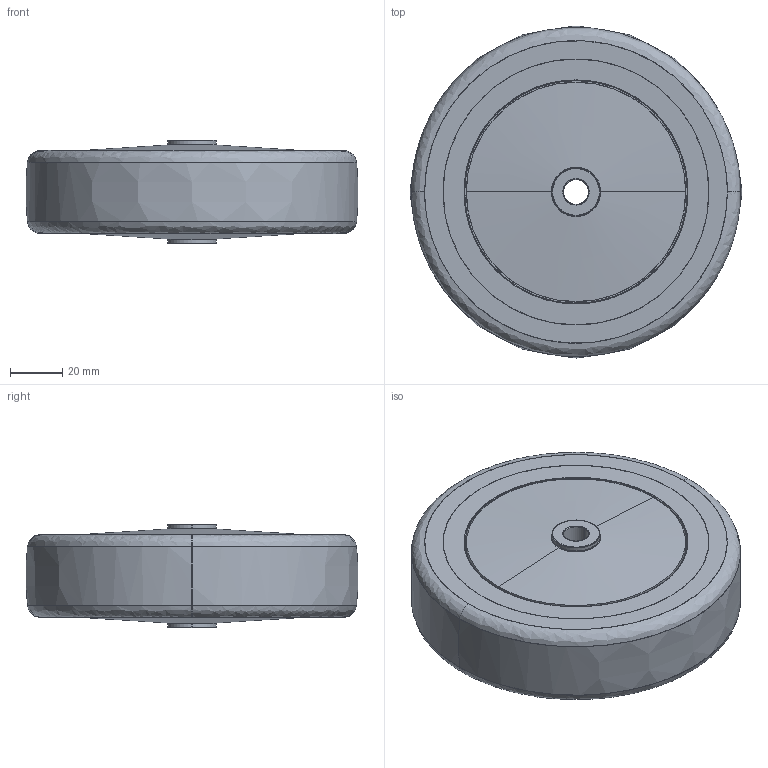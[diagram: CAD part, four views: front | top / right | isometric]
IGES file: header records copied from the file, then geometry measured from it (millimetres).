
Start section: SolidWorks IGES file using analytic representation for surfaces
Global section: file name: \\192.168.10.20\Nimesh\Tyler Manz\Output\2022-12-01\Caster Wheels\5'' x 1-¼''' Maroon Polyurethane Wheel for Casters or Equipment 300 lb Cap\SCC-PPUB514-MRN 3D IGES.IGS; native system: SolidWorks 2016; preprocessor: SolidWorks 2016; author: akshay.pandya; date: 230303.213307; units: inch
Bounding box: 126.87 x 126.86 x 39.69 mm (x, y, z)
Surface area: 62632.7 mm2 (no closed solid volume)
Topology: 0 solids, 0 shells, 52 faces, 1072 edges, 1072 vertices
Faces by surface type: bspline 30, revolution 22
